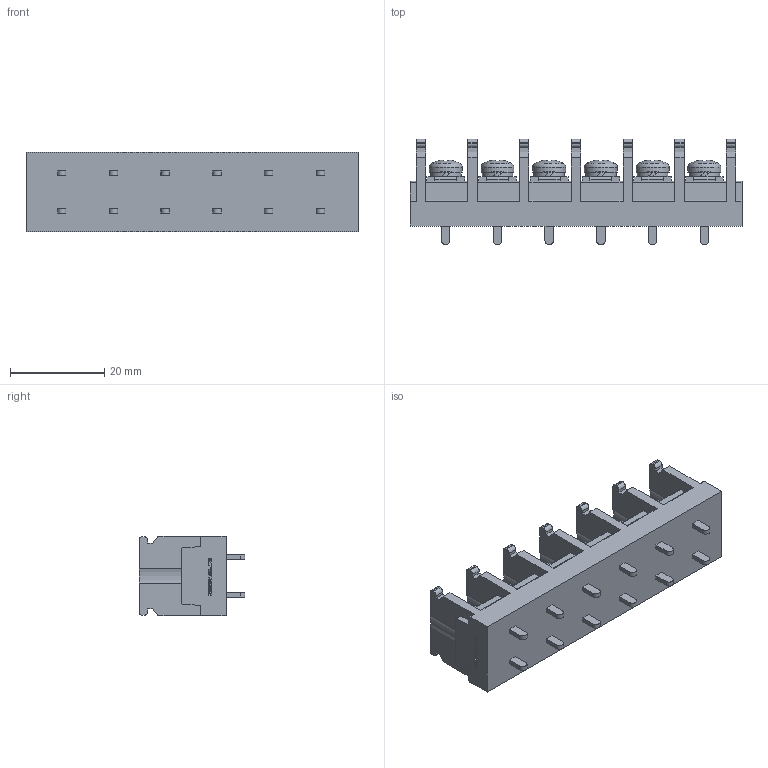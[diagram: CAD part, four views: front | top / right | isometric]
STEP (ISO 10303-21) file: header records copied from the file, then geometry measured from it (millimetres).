
FILE_DESCRIPTION(/* description */ ('Alibre Inc.'),/* implementation_level */ '2;1');
FILE_NAME(/* name */ 'export0',/* time_stamp */ '2015-10-19T19:42:41+09:00',/* author */ (''),/* organization */ (''),/* preprocessor_version */ 'ST-DEVELOPER v14',/* originating_system */ 'Alibre',/* authorisation */ '');
FILE_SCHEMA (('CONFIG_CONTROL_DESIGN'));
Length unit declared in the file: centimetre
Products named in the file (1): ID_1
Bounding box: 70.6 x 22.5 x 17 mm (x, y, z)
Volume: 13380.9 mm3; surface area: 7752.5 mm2
Topology: 1 solids, 1 shells, 888 faces, 2448 edges, 1626 vertices
Faces by surface type: plane 626, cylinder 116, bspline 104, cone 24, torus 12, sphere 6
Full cylindrical faces by diameter (mm): 4 x6, 6.5 x6, 7 x6
Entity records: 27372 total; most frequent: CARTESIAN_POINT 5994, ORIENTED_EDGE 4812, DIRECTION 3464, EDGE_CURVE 2406, VECTOR 1728, LINE 1728, VERTEX_POINT 1608, AXIS2_PLACEMENT_3D 1170
